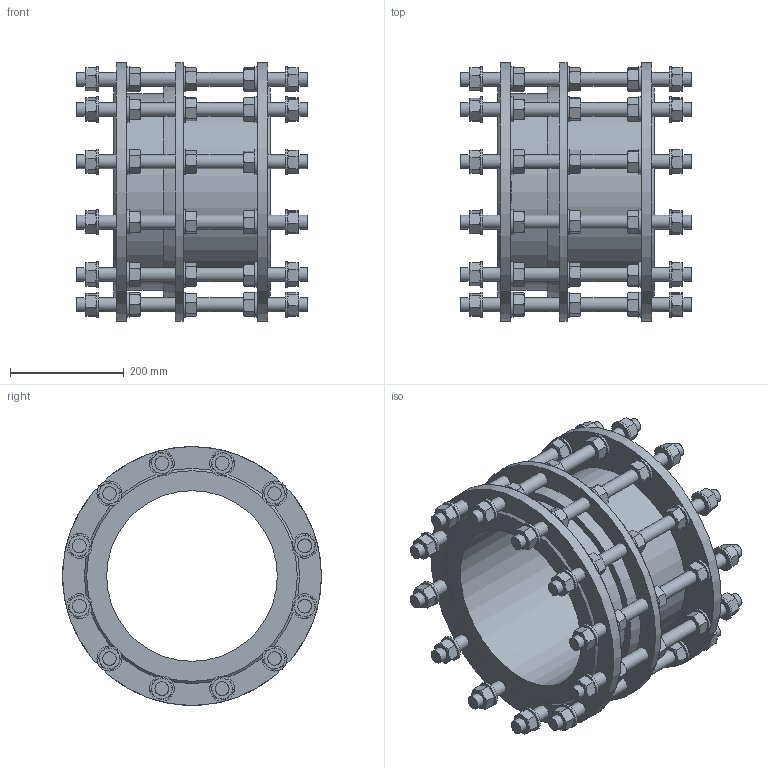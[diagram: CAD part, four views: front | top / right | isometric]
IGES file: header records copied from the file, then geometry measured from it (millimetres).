
Start section: SolidWorks IGES file using analytic representation for surfaces
Global section: file name: \\avksan2\techshare\PBM outline export from Enovia\O_265_910_DN300_1XXXXX00_L=275_REV01.igs; native system: SolidWorks 2022; preprocessor: SolidWorks 2022; author: pbm; date: 241011.110931; units: millimetre
Bounding box: 405 x 455 x 455 mm (x, y, z)
Surface area: 1477432.4 mm2 (no closed solid volume)
Topology: 0 solids, 0 shells, 1439 faces, 6064 edges, 5923 vertices
Faces by surface type: revolution 863, bspline 576
